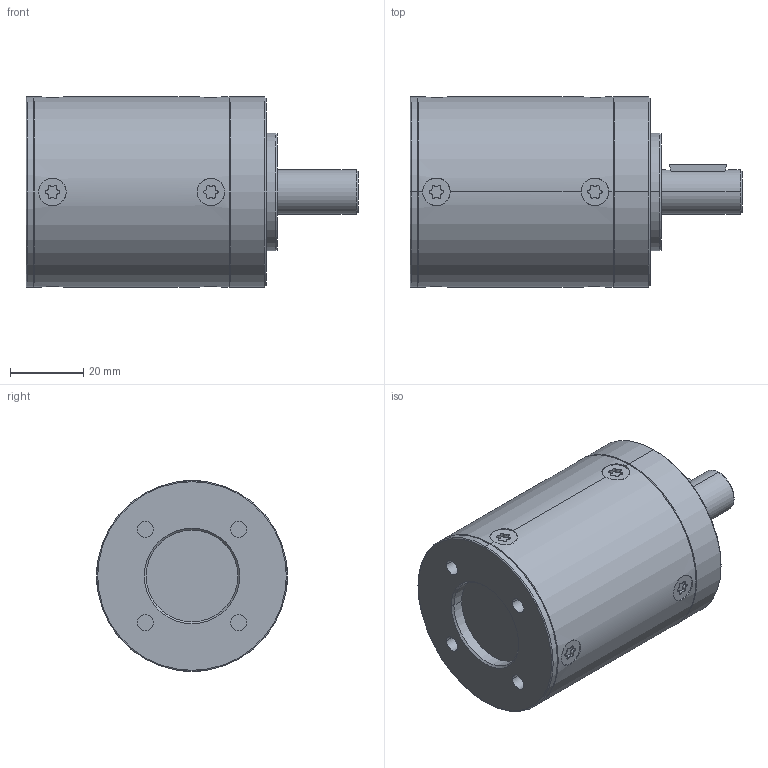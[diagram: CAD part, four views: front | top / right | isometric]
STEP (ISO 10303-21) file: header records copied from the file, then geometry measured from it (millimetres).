
FILE_DESCRIPTION((''),'2;1');
FILE_NAME('2_ST_12X25','2005-08-26T',('Andrej.Schneider'),(''),'PRO/ENGINEER BY PARAMETRIC TECHNOLOGY CORPORATION, 2003490','PRO/ENGINEER BY PARAMETRIC TECHNOLOGY CORPORATION, 2003490','');
FILE_SCHEMA(('AUTOMOTIVE_DESIGN_CC2 { 1 2 10303 214 -1 1 5 2 }'));
Length unit declared in the file: millimetre
Products named in the file (1): 2_ST_12X25
Bounding box: 90.5 x 52 x 52 mm (x, y, z)
Volume: 140837 mm3; surface area: 18190.9 mm2
Topology: 1 solids, 5 shells, 216 faces, 540 edges, 346 vertices
Faces by surface type: cylinder 150, plane 32, cone 32, torus 2
Entity records: 8358 total; most frequent: CARTESIAN_POINT 1371, DIRECTION 1272, ORIENTED_EDGE 1048, AXIS2_PLACEMENT_3D 541, EDGE_CURVE 532, VERTEX_POINT 346, CIRCLE 324, EDGE_LOOP 244
